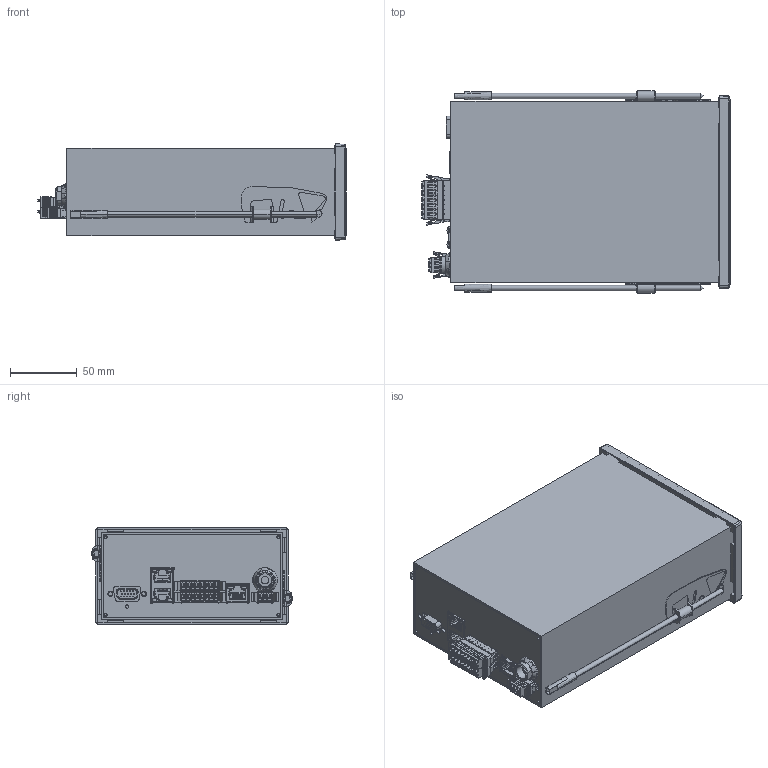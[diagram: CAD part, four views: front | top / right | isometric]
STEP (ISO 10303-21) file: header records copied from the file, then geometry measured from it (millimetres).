
FILE_DESCRIPTION((''),'2;1');
FILE_NAME('1_MVD2555_NEU_SW0001','2022-10-17T',('JEBLICK'),(''),'CREO PARAMETRIC BY PTC INC, 2018220','CREO PARAMETRIC BY PTC INC, 2018220','');
FILE_SCHEMA(('CONFIG_CONTROL_DESIGN'));
Products named in the file (1): 1_MVD2555_NEU_SW0001
Bounding box: 230.4 x 151 x 72 mm (x, y, z)
Volume: 318165.1 mm3; surface area: 283707.1 mm2
Topology: 4 solids, 8 shells, 6416 faces, 18677 edges, 11985 vertices
Faces by surface type: bspline 6416
Entity records: 304632 total; most frequent: CARTESIAN_POINT 120372, ORIENTED_EDGE 37318, DIRECTION 20776, EDGE_CURVE 18659, VECTOR 14560, LINE 14560, VERTEX_POINT 11985, EDGE_LOOP 6788
